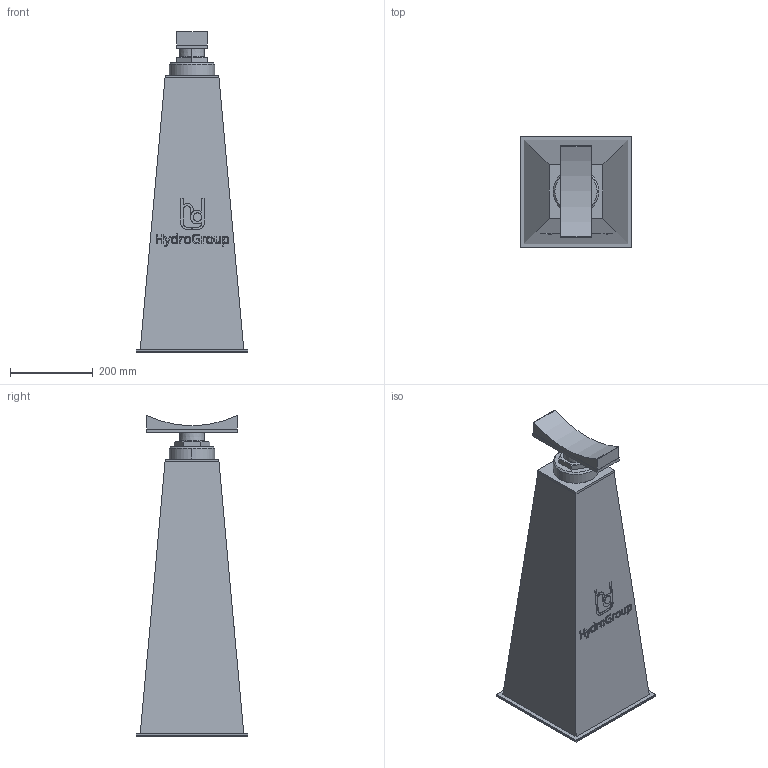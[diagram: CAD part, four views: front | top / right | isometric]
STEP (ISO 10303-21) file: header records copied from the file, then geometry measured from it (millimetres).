
FILE_DESCRIPTION(('STEP AP214'),'1');
FILE_NAME('RSRFE-I_DN500.stp','2018-06-27T13:21:08',(' '),(' '),'Spatial InterOp 3D',' ',' ');
FILE_SCHEMA(('automotive_design'));
Length unit declared in the file: millimetre
Products named in the file (6): 1; 2; 3; 4; 5; 6
Bounding box: 270 x 270 x 774 mm (x, y, z)
Volume: 26519175.8 mm3; surface area: 930950.2 mm2
Topology: 6 solids, 6 shells, 223 faces, 552 edges, 361 vertices
Faces by surface type: plane 145, cylinder 30, extrusion 24, cone 20, torus 4
Entity records: 8998 total; most frequent: CARTESIAN_POINT 1816, ORIENTED_EDGE 1104, DIRECTION 1017, EDGE_CURVE 552, VECTOR 425, LINE 401, VERTEX_POINT 361, AXIS2_PLACEMENT_3D 296
